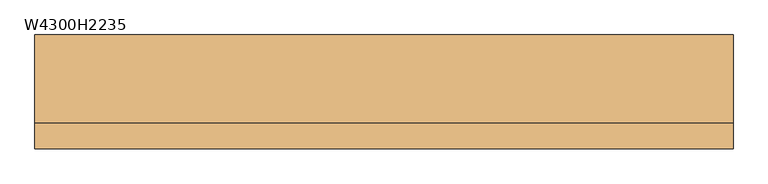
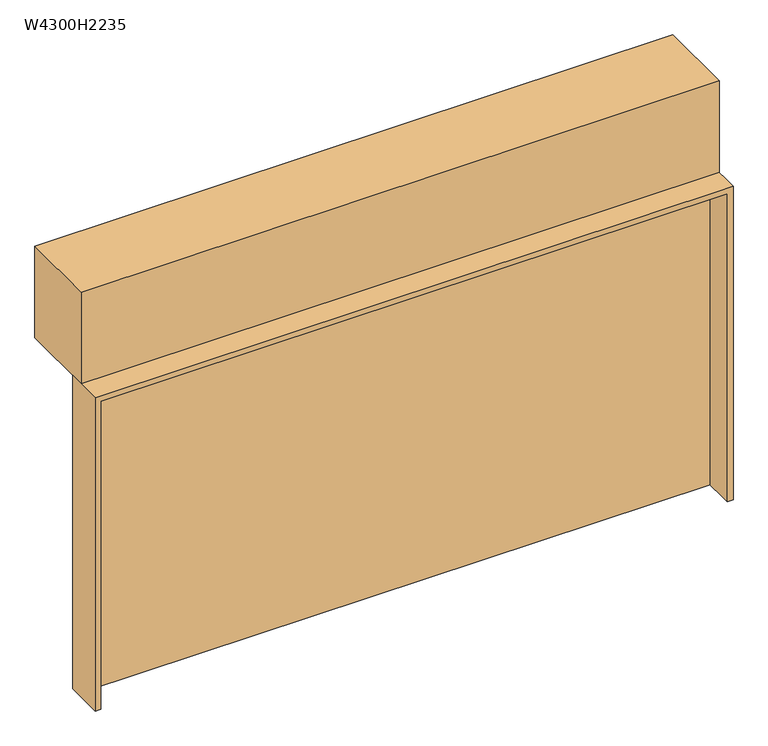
"""IFC4 building model written with IfcOpenShell, lengths in millimetres: door geometry, シャッター : W4300H2235."""

from ifc_helpers import new_model, si_unit, frame, origin, origin_with_axes, place, context, project, spatial, polyline, outline, extrude, source, transform, mapped, element, save


def w4300h2235_e8c8d852(model_context):
    return source(origin(), model_context, "Body", "SweptSolid", [
        extrude(outline(polyline([(0.0, -2190.0), (0.0, -2150.0), (2235.0, -2150.0), (2235.0, 2150.0), (0.0, 2150.0), (0.0, 2190.0), (2275.0, 2190.0), (2275.0, -2190.0), (0.0, -2190.0)])), frame((0.0, -82.5, 0.0), z_axis=(0.0, 1.0, 0.0), x_axis=(0.0, 0.0, 1.0)), (0.0, 0.0, 1.0), 265.0),
        extrude(outline(polyline([(2190.0, 82.5), (-2190.0, 82.5), (-2190.0, 632.5), (2190.0, 632.5), (2190.0, 82.5)])), frame((0.0, 0.0, 2275.0), z_axis=(0.0, 0.0, 1.0), x_axis=(1.0, 0.0, 0.0)), (0.0, 0.0, 1.0), 665.0),
        extrude(outline(polyline([(2150.0, 122.5), (-2150.0, 122.5), (-2150.0, 182.5), (2150.0, 182.5), (2150.0, 122.5)])), origin_with_axes(), (0.0, 0.0, 1.0), 2235.0),
    ])


if __name__ == "__main__":
    model = new_model("IFC4")
    model_context = context("Model", 3, world=origin())
    ifc_project = project(units=[si_unit("LENGTHUNIT", "METRE", prefix="MILLI")], contexts=[model_context])
    site = spatial("IfcSite", under=ifc_project)
    building = spatial("IfcBuilding", under=site)
    placement = place(None, origin())
    w4300h2235_shape = w4300h2235_e8c8d852(model_context)
    element("IfcDoor", 1, ObjectType="シャッター : W4300H2235", at=placement, inside=building, context=model_context, shape_type="MappedRepresentation", body=[
        mapped(w4300h2235_shape, transform((0.0, 0.0, 0.0), x_axis=(1.0, 0.0, 0.0), y_axis=(0.0, 1.0, 0.0), z_axis=(0.0, 0.0, 1.0))),
    ])
    save(model, "model.ifc")
